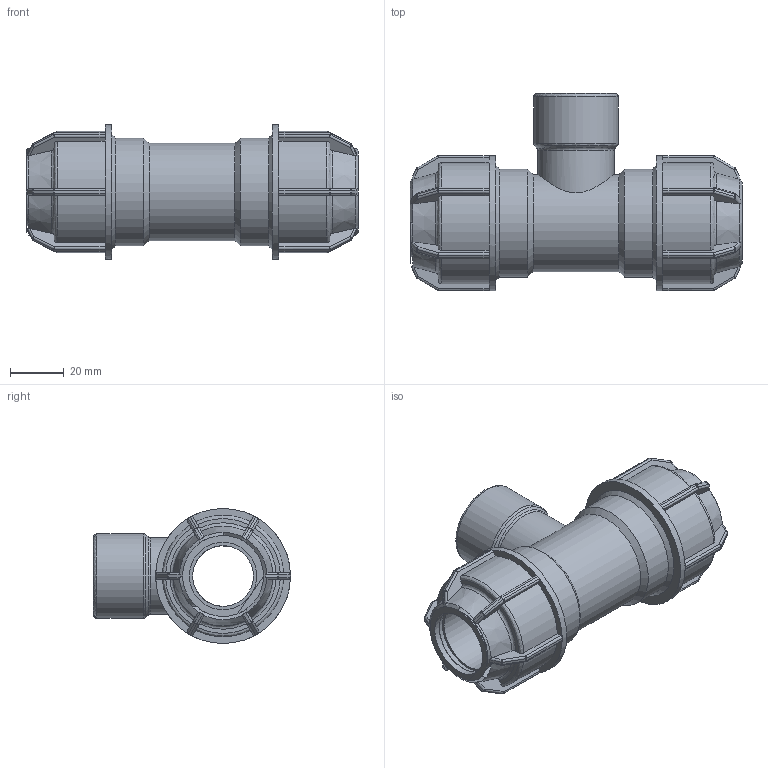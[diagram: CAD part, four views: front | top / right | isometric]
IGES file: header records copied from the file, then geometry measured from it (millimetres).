
Global section: file name: 141400025007.ipt; native system: Autodesk Inventor 2015; preprocessor: unknown; author: KIM; date: 20180416.111604; units: millimetre
Bounding box: 123 x 73 x 50 mm (x, y, z)
Volume: 106901.4 mm3; surface area: 36028.4 mm2
Topology: 1 solids, 1 shells, 412 faces, 1007 edges, 589 vertices
Faces by surface type: plane 194, cylinder 115, sphere 48, revolution 38, cone 17
Full cylindrical faces by diameter (mm): 28.217 x1, 31.352 x1, 36 x1, 40 x2, 50 x2
